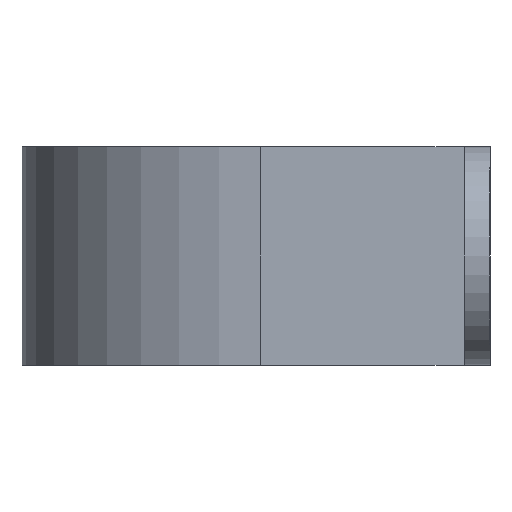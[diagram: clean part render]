
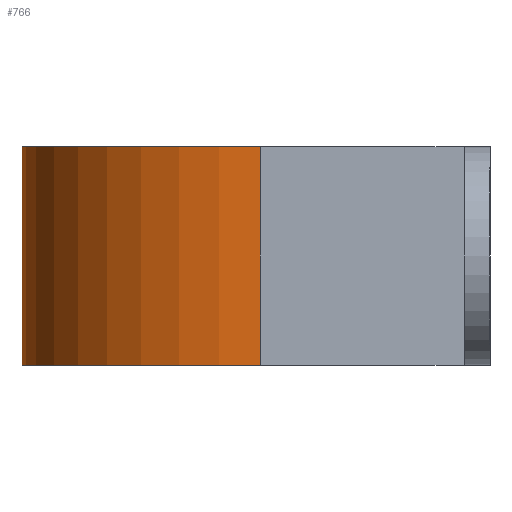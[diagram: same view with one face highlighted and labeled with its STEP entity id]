
A CAD part, left-side view. The second image highlights one B-rep face of the part: STEP entity #766.
In plain terms, the highlighted cylindrical face has radius 21.8 mm (diameter 43.6 mm), a partial arc.
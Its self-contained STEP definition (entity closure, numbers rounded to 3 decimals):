
#5 = AXIS2_PLACEMENT_3D ( 'NONE', #303, #695, #781 ) ;
#8 = EDGE_CURVE ( 'NONE', #9, #650, #897, .T. ) ;
#9 = VERTEX_POINT ( 'NONE', #615 ) ;
#10 = CARTESIAN_POINT ( 'NONE',  ( 0., 21., -10. ) ) ;
#25 = CYLINDRICAL_SURFACE ( 'NONE', #5, 21.8 ) ;
#26 = VECTOR ( 'NONE', #865, 1000. ) ;
#27 = LINE ( 'NONE', #649, #26 ) ;
#93 = CARTESIAN_POINT ( 'NONE',  ( -21.8, 21., 10. ) ) ;
#147 = DIRECTION ( 'NONE',  ( 0., 0., 1. ) ) ;
#148 = AXIS2_PLACEMENT_3D ( 'NONE', #595, #147, #501 ) ;
#181 = EDGE_CURVE ( 'NONE', #436, #650, #429, .T. ) ;
#221 = EDGE_CURVE ( 'NONE', #288, #436, #27, .T. ) ;
#288 = VERTEX_POINT ( 'NONE', #755 ) ;
#303 = CARTESIAN_POINT ( 'NONE',  ( 0., 21., 10. ) ) ;
#360 = ORIENTED_EDGE ( 'NONE', *, *, #181, .T. ) ;
#377 = EDGE_LOOP ( 'NONE', ( #360, #669, #423, #582 ) ) ;
#383 = DIRECTION ( 'NONE',  ( 0., 0., 1. ) ) ;
#393 = CARTESIAN_POINT ( 'NONE',  ( 21.8, 21., -10. ) ) ;
#423 = ORIENTED_EDGE ( 'NONE', *, *, #734, .F. ) ;
#429 = CIRCLE ( 'NONE', #807, 21.8 ) ;
#436 = VERTEX_POINT ( 'NONE', #393 ) ;
#501 = DIRECTION ( 'NONE',  ( -1., 0., 0. ) ) ;
#519 = FACE_OUTER_BOUND ( 'NONE', #377, .T. ) ;
#582 = ORIENTED_EDGE ( 'NONE', *, *, #221, .T. ) ;
#595 = CARTESIAN_POINT ( 'NONE',  ( 0., 21., 10. ) ) ;
#596 = DIRECTION ( 'NONE',  ( 0., 0., -1. ) ) ;
#615 = CARTESIAN_POINT ( 'NONE',  ( -21.8, 21., 10. ) ) ;
#649 = CARTESIAN_POINT ( 'NONE',  ( 21.8, 21., 10. ) ) ;
#650 = VERTEX_POINT ( 'NONE', #825 ) ;
#660 = DIRECTION ( 'NONE',  ( 1., 0., 0. ) ) ;
#669 = ORIENTED_EDGE ( 'NONE', *, *, #8, .F. ) ;
#695 = DIRECTION ( 'NONE',  ( 0., 0., -1. ) ) ;
#702 = CIRCLE ( 'NONE', #148, 21.8 ) ;
#734 = EDGE_CURVE ( 'NONE', #288, #9, #702, .T. ) ;
#748 = VECTOR ( 'NONE', #596, 1000. ) ;
#755 = CARTESIAN_POINT ( 'NONE',  ( 21.8, 21., 10. ) ) ;
#766 = ADVANCED_FACE ( 'NONE', ( #519 ), #25, .T. ) ;
#781 = DIRECTION ( 'NONE',  ( -1., 0., 0. ) ) ;
#807 = AXIS2_PLACEMENT_3D ( 'NONE', #10, #383, #660 ) ;
#825 = CARTESIAN_POINT ( 'NONE',  ( -21.8, 21., -10. ) ) ;
#865 = DIRECTION ( 'NONE',  ( 0., 0., -1. ) ) ;
#897 = LINE ( 'NONE', #93, #748 ) ;
